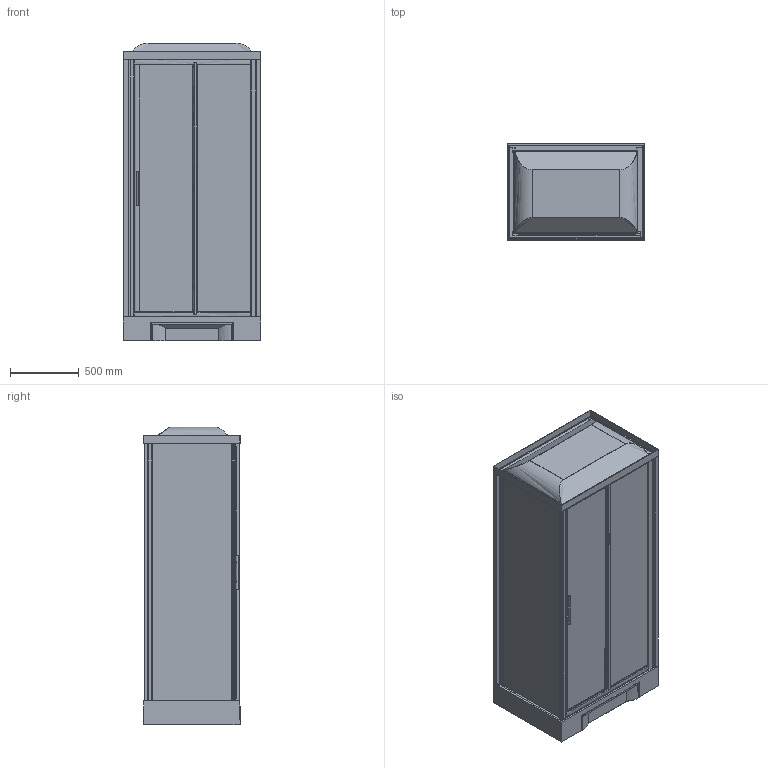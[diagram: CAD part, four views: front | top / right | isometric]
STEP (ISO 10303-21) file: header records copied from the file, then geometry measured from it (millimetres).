
FILE_DESCRIPTION(('STEP AP203'),'2;1');
FILE_NAME('NNH 2P 100 D M T.stp','2015-09-08T09:06:05',(''),(''),'2014.1.117','THINKDESIGN','');
FILE_SCHEMA(('CONFIG_CONTROL_DESIGN'));
Length unit declared in the file: millimetre
Products named in the file (1): top
Bounding box: 1004.05 x 707.53 x 2170 mm (x, y, z)
Volume: 229524877.7 mm3; surface area: 19542487.9 mm2
Topology: 26 solids, 26 shells, 628 faces, 1639 edges, 1067 vertices
Faces by surface type: bspline 301, plane 277, cylinder 50
Entity records: 65733 total; most frequent: CARTESIAN_POINT 52678, ORIENTED_EDGE 3174, DIRECTION 1729, EDGE_CURVE 1587, VERTEX_POINT 1030, VECTOR 809, LINE 809, EDGE_LOOP 637
